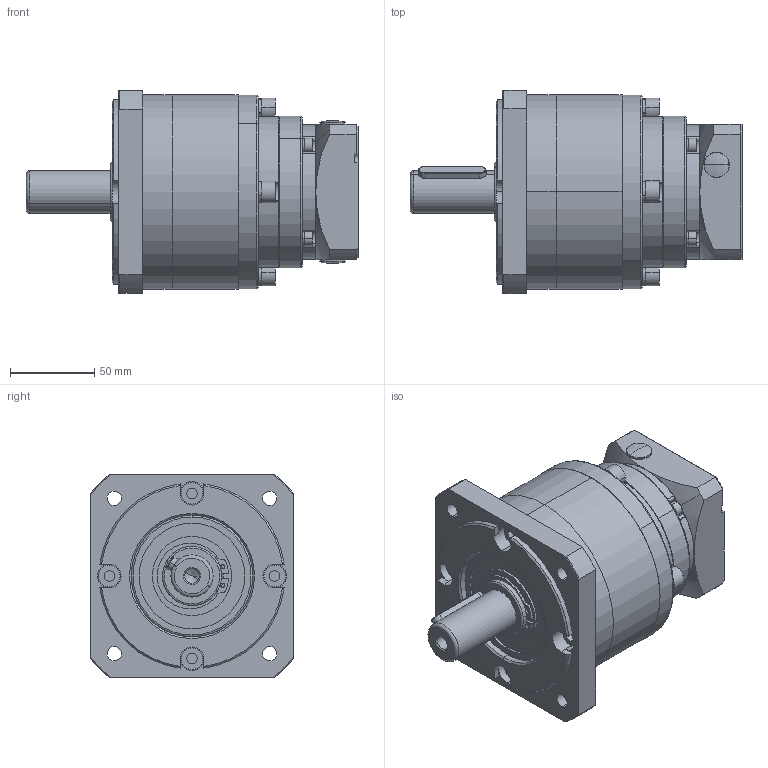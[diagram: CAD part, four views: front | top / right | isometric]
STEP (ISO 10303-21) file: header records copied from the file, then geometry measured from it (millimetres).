
FILE_DESCRIPTION (( 'STEP AP203' ), '1' );
FILE_NAME ('PF115L2-i-P2-S2-19-40-70-90-M6.step', '2020-03-23T09:05:51', ( '个人用户' ), ( '微软中国' ), 'SwSTEP 2.0', 'SolidWorks 2018', '' );
FILE_SCHEMA (( 'CONFIG_CONTROL_DESIGN' ));
Length unit declared in the file: millimetre
Products named in the file (1): PF115L2-i-P2-S2-19-40-70-90-M6
Bounding box: 196.5 x 120 x 120 mm (x, y, z)
Volume: 966228.3 mm3; surface area: 267447.9 mm2
Topology: 49 solids, 49 shells, 1358 faces, 3188 edges, 2025 vertices
Faces by surface type: cylinder 492, plane 403, sphere 170, torus 153, cone 140
Entity records: 44802 total; most frequent: CARTESIAN_POINT 12636, DIRECTION 7237, ORIENTED_EDGE 6324, EDGE_CURVE 3162, AXIS2_PLACEMENT_3D 3048, VERTEX_POINT 2025, CIRCLE 1689, EDGE_LOOP 1587
